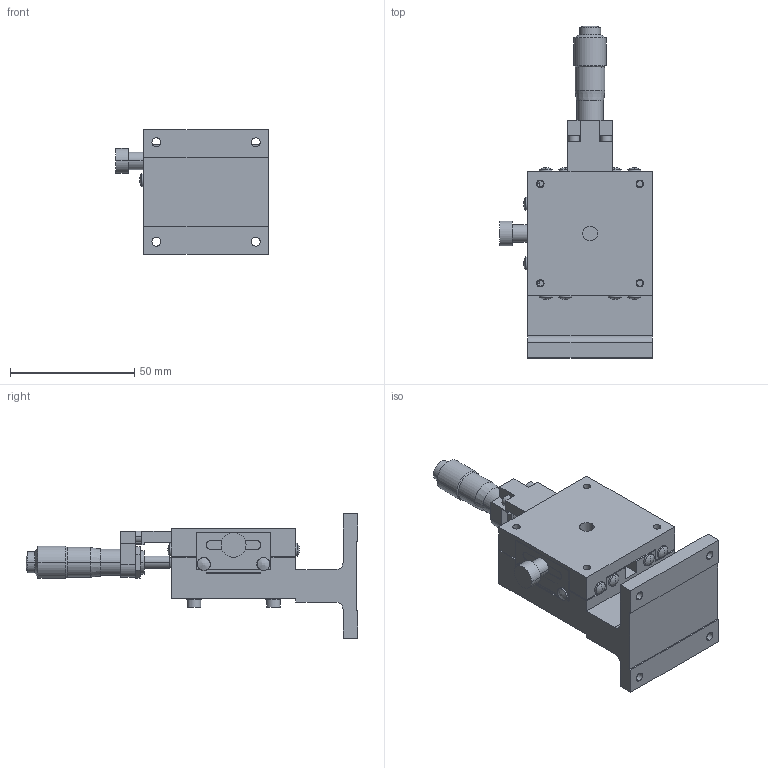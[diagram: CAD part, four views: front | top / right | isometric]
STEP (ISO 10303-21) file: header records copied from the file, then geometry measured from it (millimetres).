
FILE_DESCRIPTION (( 'STEP AP203' ), '1' );
FILE_NAME ('LZ-5047-C1.STEP', '2011-07-04T09:28:23', ( ' ' ), ( ' ' ), 'SwSTEP 2.0', 'SolidWorks 2010', '' );
FILE_SCHEMA (( 'CONFIG_CONTROL_DESIGN' ));
Length unit declared in the file: millimetre
Products named in the file (3): LZ-5047-C1; LZ-5047-C1-1; LZ-5047-C1-2
Assembly tree (2 placements, depth 2):
  LZ-5047-C1
    LZ-5047-C1-1
    LZ-5047-C1-2
Bounding box: 61.3 x 133.5 x 50 mm (x, y, z)
Volume: 99058.5 mm3; surface area: 36538.5 mm2
Topology: 3 solids, 9 shells, 326 faces, 767 edges, 492 vertices
Faces by surface type: plane 139, cylinder 133, cone 32, sphere 18, torus 2, bspline 2
Entity records: 10198 total; most frequent: CARTESIAN_POINT 2040, DIRECTION 1757, ORIENTED_EDGE 1530, EDGE_CURVE 765, AXIS2_PLACEMENT_3D 673, VERTEX_POINT 492, LINE 411, VECTOR 411
